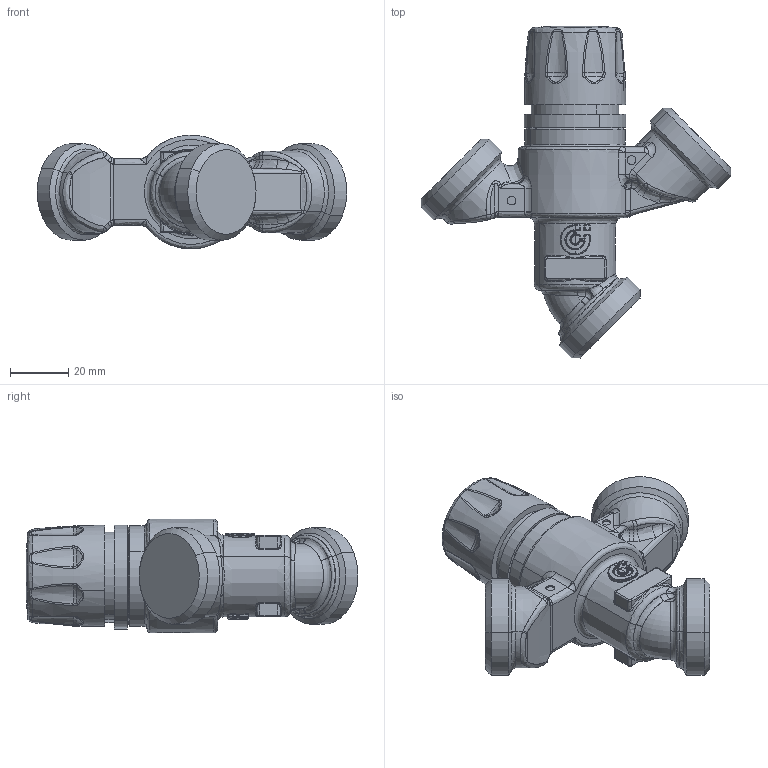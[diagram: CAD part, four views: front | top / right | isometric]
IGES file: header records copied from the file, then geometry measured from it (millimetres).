
Start section: START RECORD GO HERE.
Global section: file name: IGES_520051_-_TST.igs; native system: DASSAULT SYSTEMES CATIA Version 5-6 Release 2014 - www.3ds.com; preprocessor: V5-6R2014_5.24.5.0.02-24-2015.20.00; author: advantage; organization: CALEFFI; date: 20170726.151742; units: millimetre
Bounding box: 106.13 x 113.86 x 38.97 mm (x, y, z)
Surface area: 22221.2 mm2 (no closed solid volume)
Topology: 0 solids, 0 shells, 898 faces, 4034 edges, 3958 vertices
Faces by surface type: revolution 523, bspline 261, plane 114
